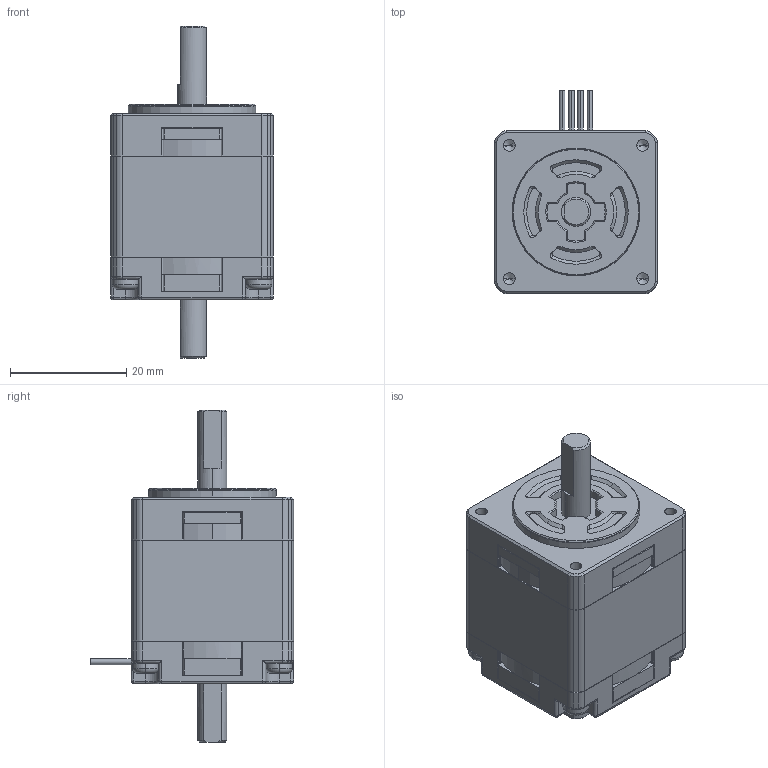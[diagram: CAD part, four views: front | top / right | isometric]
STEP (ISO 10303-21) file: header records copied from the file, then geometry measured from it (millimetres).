
FILE_DESCRIPTION (( 'STEP AP203' ), '1' );
FILE_NAME ('SH2281-5771.STEP', '2012-06-25T11:18:33', ( 'sanyodenki-admin' ), ( '' ), 'SwSTEP 2.0', 'SolidWorks 2011', '' );
FILE_SCHEMA (( 'CONFIG_CONTROL_DESIGN' ));
Length unit declared in the file: millimetre
Products named in the file (1): SH2281-5771
Bounding box: 28 x 35 x 57.2 mm (x, y, z)
Volume: 25416.5 mm3; surface area: 8321.6 mm2
Topology: 1 solids, 1 shells, 639 faces, 1705 edges, 1021 vertices
Faces by surface type: plane 247, cylinder 243, cone 79, torus 38, sphere 16, bspline 16
Entity records: 20133 total; most frequent: CARTESIAN_POINT 4034, DIRECTION 3498, ORIENTED_EDGE 3362, EDGE_CURVE 1681, AXIS2_PLACEMENT_3D 1301, VERTEX_POINT 1021, VECTOR 896, LINE 896
